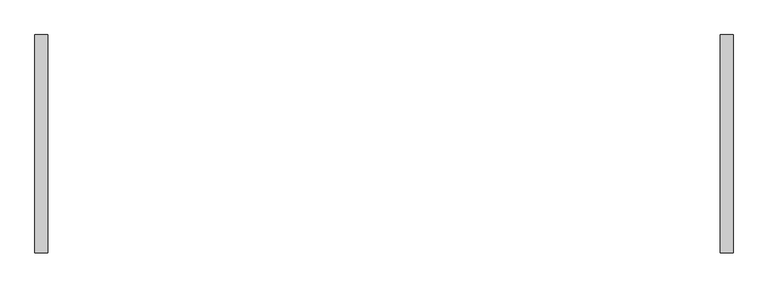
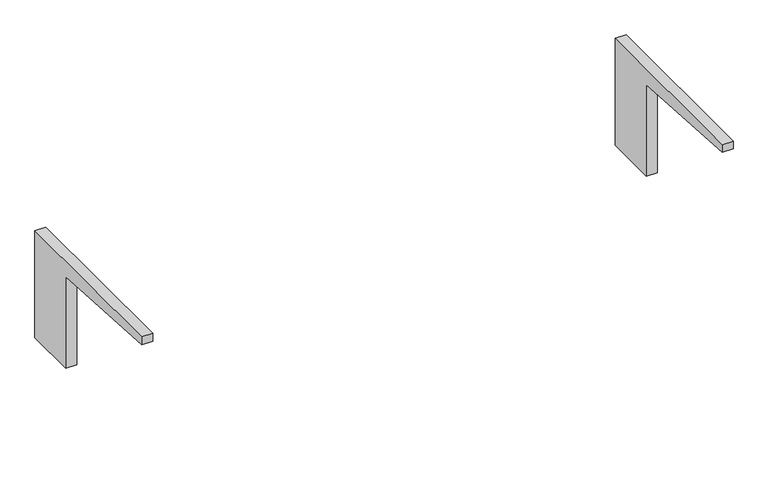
"""IFC4 building model written with IfcOpenShell, lengths in millimetres: furniture geometry, HermanMiller_CoStruc_C2140R_WorkSurfaceSupport_ComponentAdaptorReady : 14H x 24D x 72W."""

from ifc_helpers import new_model, si_unit, point, frame, frame_2d, origin, place, context, project, spatial, polyline, circle_curve, trimmed, segment, composite_curve, outline, extrude, source, transform, mapped, element, save


def furniture_43fda681(model_context):
    return source(origin(), model_context, "Body", "SweptSolid", [
        extrude(outline(composite_curve([segment(polyline([(177.8, 882.65), (177.8, 533.4), (12.7, 533.4), (12.7, 831.85)]), True, "CONTINUOUS"), segment(trimmed(circle_curve(frame_2d((-388.143904, -2317.7524637)), 3175.0073252), [point((12.7, 831.85))], [point((-393.7, 857.25))], True, "CARTESIAN"), True, "CONTINUOUS"), segment(polyline([(-393.7, 857.25), (-393.7, 882.65), (177.8, 882.65)]), True, "CONTINUOUS")], self_intersect=False)), frame((879.475, 0.0, 0.0), z_axis=(1.0, 0.0, 0.0), x_axis=(0.0, 1.0, 0.0)), (0.0, 0.0, 1.0), 33.3375),
        extrude(outline(composite_curve([segment(polyline([(-393.7, 857.25), (-393.7, 882.65), (177.8, 882.65), (177.8, 533.4), (12.7, 533.4), (12.7, 831.85)]), True, "CONTINUOUS"), segment(trimmed(circle_curve(frame_2d((-388.143904, -2317.7524637)), 3175.0073252), [point((12.7, 831.85))], [point((-393.7, 857.25))], True, "CARTESIAN"), True, "CONTINUOUS")], self_intersect=False)), frame((-912.8125, 0.0, 0.0), z_axis=(1.0, 0.0, 0.0), x_axis=(0.0, 1.0, 0.0)), (0.0, 0.0, 1.0), 33.3375),
    ])


if __name__ == "__main__":
    model = new_model("IFC4")
    model_context = context("Model", 3, world=origin())
    ifc_project = project(units=[si_unit("LENGTHUNIT", "METRE", prefix="MILLI")], contexts=[model_context])
    site = spatial("IfcSite", under=ifc_project)
    building = spatial("IfcBuilding", under=site)
    placement = place(None, origin())
    furniture_shape = furniture_43fda681(model_context)
    element("IfcFurniture", 1, ObjectType="HermanMiller_CoStruc_C2140R_WorkSurfaceSupport_ComponentAdaptorReady : 14H x 24D x 72W", at=placement, inside=building, context=model_context, shape_type="MappedRepresentation", body=[
        mapped(furniture_shape, transform((0.0, 0.0, 0.0), x_axis=(1.0, 0.0, 0.0), y_axis=(0.0, 1.0, 0.0), z_axis=(0.0, 0.0, 1.0))),
    ])
    save(model, "model.ifc")
